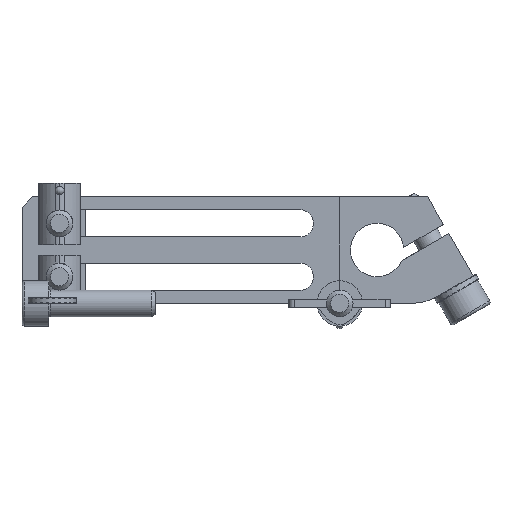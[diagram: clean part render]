
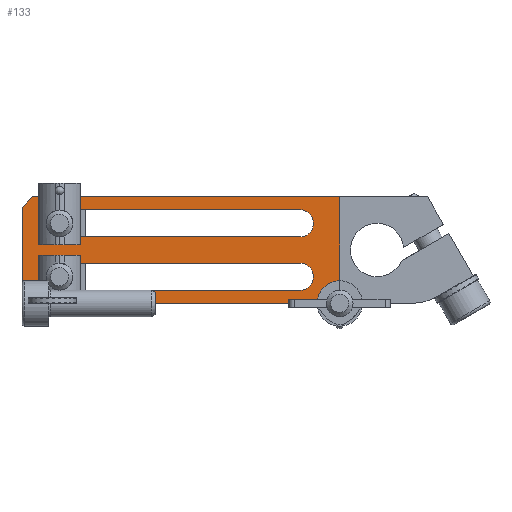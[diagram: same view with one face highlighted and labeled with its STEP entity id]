
A CAD part, front view. The second image highlights one B-rep face of the part: STEP entity #133.
In plain terms, the highlighted planar face has unit normal (0, -1, 0).
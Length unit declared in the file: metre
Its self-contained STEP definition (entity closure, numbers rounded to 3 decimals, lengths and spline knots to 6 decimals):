
#133 = ADVANCED_FACE( '', ( #246, #247, #248 ), #249, .T. );
#246 = FACE_BOUND( '', #382, .T. );
#247 = FACE_BOUND( '', #383, .T. );
#248 = FACE_OUTER_BOUND( '', #384, .T. );
#249 = PLANE( '', #385 );
#382 = EDGE_LOOP( '', ( #817, #818, #819, #820 ) );
#383 = EDGE_LOOP( '', ( #821, #822, #823, #824 ) );
#384 = EDGE_LOOP( '', ( #825, #826, #827, #828, #829, #830 ) );
#385 = AXIS2_PLACEMENT_3D( '', #831, #832, #833 );
#817 = ORIENTED_EDGE( '', *, *, #1538, .F. );
#818 = ORIENTED_EDGE( '', *, *, #1539, .F. );
#819 = ORIENTED_EDGE( '', *, *, #1540, .F. );
#820 = ORIENTED_EDGE( '', *, *, #1541, .F. );
#821 = ORIENTED_EDGE( '', *, *, #1542, .F. );
#822 = ORIENTED_EDGE( '', *, *, #1535, .F. );
#823 = ORIENTED_EDGE( '', *, *, #1543, .F. );
#824 = ORIENTED_EDGE( '', *, *, #1544, .F. );
#825 = ORIENTED_EDGE( '', *, *, #1545, .F. );
#826 = ORIENTED_EDGE( '', *, *, #1525, .T. );
#827 = ORIENTED_EDGE( '', *, *, #1532, .F. );
#828 = ORIENTED_EDGE( '', *, *, #1504, .T. );
#829 = ORIENTED_EDGE( '', *, *, #1521, .F. );
#830 = ORIENTED_EDGE( '', *, *, #1546, .T. );
#831 = CARTESIAN_POINT( '', ( -0.05947, 0.0042, -0.008575 ) );
#832 = DIRECTION( '', ( 0., -1., 0. ) );
#833 = DIRECTION( '', ( 0., 0., -1. ) );
#1504 = EDGE_CURVE( '', #2176, #2174, #2177, .T. );
#1521 = EDGE_CURVE( '', #2200, #2174, #2202, .T. );
#1525 = EDGE_CURVE( '', #2207, #2205, #2208, .F. );
#1532 = EDGE_CURVE( '', #2176, #2205, #2217, .T. );
#1535 = EDGE_CURVE( '', #2219, #2221, #2222, .T. );
#1538 = EDGE_CURVE( '', #2225, #2226, #2227, .T. );
#1539 = EDGE_CURVE( '', #2228, #2225, #2229, .T. );
#1540 = EDGE_CURVE( '', #2230, #2228, #2231, .T. );
#1541 = EDGE_CURVE( '', #2226, #2230, #2232, .T. );
#1542 = EDGE_CURVE( '', #2221, #2233, #2234, .T. );
#1543 = EDGE_CURVE( '', #2235, #2219, #2236, .T. );
#1544 = EDGE_CURVE( '', #2233, #2235, #2237, .T. );
#1545 = EDGE_CURVE( '', #2207, #2238, #2239, .T. );
#1546 = EDGE_CURVE( '', #2200, #2238, #2240, .F. );
#2174 = VERTEX_POINT( '', #4448 );
#2176 = VERTEX_POINT( '', #4451 );
#2177 = LINE( '', #4452, #4453 );
#2200 = VERTEX_POINT( '', #4485 );
#2202 = LINE( '', #4488, #4489 );
#2205 = VERTEX_POINT( '', #4493 );
#2207 = VERTEX_POINT( '', #4496 );
#2208 = LINE( '', #4497, #4498 );
#2217 = LINE( '', #4509, #4510 );
#2219 = VERTEX_POINT( '', #4512 );
#2221 = VERTEX_POINT( '', #4515 );
#2222 = LINE( '', #4516, #4517 );
#2225 = VERTEX_POINT( '', #4521 );
#2226 = VERTEX_POINT( '', #4522 );
#2227 = CIRCLE( '', #4523, 0.00255 );
#2228 = VERTEX_POINT( '', #4524 );
#2229 = LINE( '', #4525, #4526 );
#2230 = VERTEX_POINT( '', #4527 );
#2231 = CIRCLE( '', #4528, 0.00255 );
#2232 = LINE( '', #4529, #4530 );
#2233 = VERTEX_POINT( '', #4531 );
#2234 = CIRCLE( '', #4532, 0.00255 );
#2235 = VERTEX_POINT( '', #4533 );
#2236 = CIRCLE( '', #4534, 0.00255 );
#2237 = LINE( '', #4535, #4536 );
#2238 = VERTEX_POINT( '', #4537 );
#2239 = LINE( '', #4538, #4539 );
#2240 = LINE( '', #4540, #4541 );
#4448 = CARTESIAN_POINT( '', ( 0., 0.0042, 0.02 ) );
#4451 = CARTESIAN_POINT( '', ( 0., 0.0042, 0. ) );
#4452 = CARTESIAN_POINT( '', ( 0., 0.0042, -0.008575 ) );
#4453 = VECTOR( '', #5307, 1. );
#4485 = CARTESIAN_POINT( '', ( -0.05747, 0.0042, 0.02 ) );
#4488 = CARTESIAN_POINT( '', ( -0.05947, 0.0042, 0.02 ) );
#4489 = VECTOR( '', #5324, 1. );
#4493 = CARTESIAN_POINT( '', ( -0.05747, 0.0042, 0. ) );
#4496 = CARTESIAN_POINT( '', ( -0.05947, 0.0042, 0.002 ) );
#4497 = CARTESIAN_POINT( '', ( -0.054183, 0.0042, -0.003288 ) );
#4498 = VECTOR( '', #5327, 1. );
#4509 = CARTESIAN_POINT( '', ( -0.05947, 0.0042, 0. ) );
#4510 = VECTOR( '', #5336, 1. );
#4512 = CARTESIAN_POINT( '', ( -0.05247, 0.0042, 0.01245 ) );
#4515 = CARTESIAN_POINT( '', ( -0.00747, 0.0042, 0.01245 ) );
#4516 = CARTESIAN_POINT( '', ( -0.05247, 0.0042, 0.01245 ) );
#4517 = VECTOR( '', #5338, 1. );
#4521 = CARTESIAN_POINT( '', ( -0.05247, 0.0042, 0.00755 ) );
#4522 = CARTESIAN_POINT( '', ( -0.05247, 0.0042, 0.00245 ) );
#4523 = AXIS2_PLACEMENT_3D( '', #5340, #5341, #5342 );
#4524 = CARTESIAN_POINT( '', ( -0.00747, 0.0042, 0.00755 ) );
#4525 = CARTESIAN_POINT( '', ( -0.00747, 0.0042, 0.00755 ) );
#4526 = VECTOR( '', #5343, 1. );
#4527 = CARTESIAN_POINT( '', ( -0.00747, 0.0042, 0.00245 ) );
#4528 = AXIS2_PLACEMENT_3D( '', #5344, #5345, #5346 );
#4529 = CARTESIAN_POINT( '', ( -0.05247, 0.0042, 0.00245 ) );
#4530 = VECTOR( '', #5347, 1. );
#4531 = CARTESIAN_POINT( '', ( -0.00747, 0.0042, 0.01755 ) );
#4532 = AXIS2_PLACEMENT_3D( '', #5348, #5349, #5350 );
#4533 = CARTESIAN_POINT( '', ( -0.05247, 0.0042, 0.01755 ) );
#4534 = AXIS2_PLACEMENT_3D( '', #5351, #5352, #5353 );
#4535 = CARTESIAN_POINT( '', ( -0.00747, 0.0042, 0.01755 ) );
#4536 = VECTOR( '', #5354, 1. );
#4537 = CARTESIAN_POINT( '', ( -0.05947, 0.0042, 0.018 ) );
#4538 = CARTESIAN_POINT( '', ( -0.05947, 0.0042, -0.008575 ) );
#4539 = VECTOR( '', #5355, 1. );
#4540 = CARTESIAN_POINT( '', ( -0.072758, 0.0042, 0.004713 ) );
#4541 = VECTOR( '', #5356, 1. );
#5307 = DIRECTION( '', ( 0., 0., 1. ) );
#5324 = DIRECTION( '', ( 1., 0., 0. ) );
#5327 = DIRECTION( '', ( -0.707, 0., 0.707 ) );
#5336 = DIRECTION( '', ( -1., 0., 0. ) );
#5338 = DIRECTION( '', ( 1., 0., 0. ) );
#5340 = CARTESIAN_POINT( '', ( -0.05247, 0.0042, 0.005 ) );
#5341 = DIRECTION( '', ( 0., -1., 0. ) );
#5342 = DIRECTION( '', ( 1., 0., 0. ) );
#5343 = DIRECTION( '', ( -1., 0., 0. ) );
#5344 = CARTESIAN_POINT( '', ( -0.00747, 0.0042, 0.005 ) );
#5345 = DIRECTION( '', ( 0., -1., 0. ) );
#5346 = DIRECTION( '', ( 1., 0., 0. ) );
#5347 = DIRECTION( '', ( 1., 0., 0. ) );
#5348 = CARTESIAN_POINT( '', ( -0.00747, 0.0042, 0.015 ) );
#5349 = DIRECTION( '', ( 0., -1., 0. ) );
#5350 = DIRECTION( '', ( 1., 0., 0. ) );
#5351 = CARTESIAN_POINT( '', ( -0.05247, 0.0042, 0.015 ) );
#5352 = DIRECTION( '', ( 0., -1., 0. ) );
#5353 = DIRECTION( '', ( 1., 0., 0. ) );
#5354 = DIRECTION( '', ( -1., 0., 0. ) );
#5355 = DIRECTION( '', ( 0., 0., 1. ) );
#5356 = DIRECTION( '', ( 0.707, 0., 0.707 ) );
